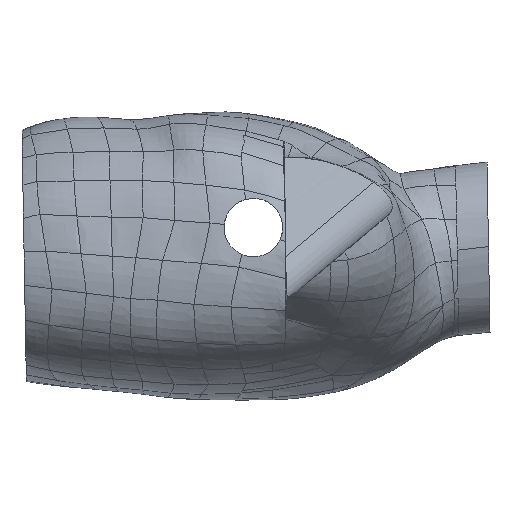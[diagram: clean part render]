
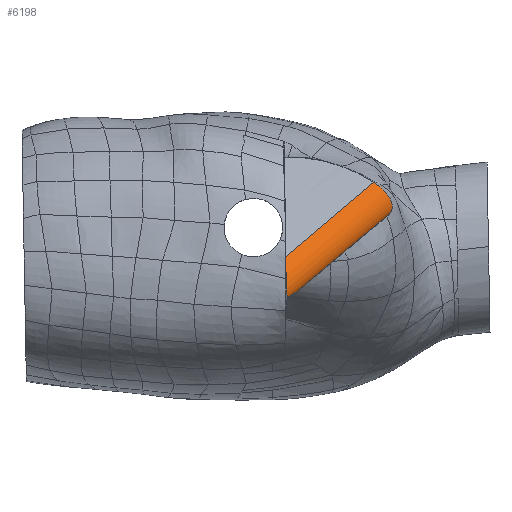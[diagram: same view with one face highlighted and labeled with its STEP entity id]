
A CAD part, left-side view. The second image highlights one B-rep face of the part: STEP entity #6198.
In plain terms, the highlighted cylindrical face has radius 19.05 mm (diameter 38.1 mm), a partial arc.
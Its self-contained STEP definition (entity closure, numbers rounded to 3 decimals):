
#26=CYLINDRICAL_SURFACE('',#6502,19.05);
#182=FACE_OUTER_BOUND('',#612,.T.);
#612=EDGE_LOOP('',(#4273,#4274,#4275,#4276,#4277,#4278,#4279,#4280,#4281,
#4282,#4283));
#1266=B_SPLINE_CURVE_WITH_KNOTS('',3,(#34501,#34502,#34503,#34504,#34505,
#34506),.UNSPECIFIED.,.F.,.F.,(4,2,4),(-0.439,-0.22,
-0.001),.UNSPECIFIED.);
#1267=B_SPLINE_CURVE_WITH_KNOTS('',3,(#34508,#34509,#34510,#34511,#34512,
#34513),.UNSPECIFIED.,.F.,.F.,(4,2,4),(-0.147,-0.085,
0.),.UNSPECIFIED.);
#1268=B_SPLINE_CURVE_WITH_KNOTS('',3,(#34517,#34518,#34519,#34520,#34521,
#34522),.UNSPECIFIED.,.F.,.F.,(4,2,4),(-0.422,-0.252,
0.),.UNSPECIFIED.);
#1269=B_SPLINE_CURVE_WITH_KNOTS('',3,(#34524,#34525,#34526,#34527,#34528,
#34529,#34530,#34531,#34532,#34533),.UNSPECIFIED.,.F.,.F.,(4,2,2,2,4),(0.,
0.6,1.278,1.97,2.496),
 .UNSPECIFIED.);
#1270=B_SPLINE_CURVE_WITH_KNOTS('',3,(#34535,#34536,#34537,#34538,#34539,
#34540),.UNSPECIFIED.,.F.,.F.,(4,2,4),(0.,0.068,
0.134),.UNSPECIFIED.);
#1271=B_SPLINE_CURVE_WITH_KNOTS('',3,(#34542,#34543,#34544,#34545,#34546,
#34547),.UNSPECIFIED.,.F.,.F.,(4,2,4),(-0.413,-0.209,
0.),.UNSPECIFIED.);
#1272=B_SPLINE_CURVE_WITH_KNOTS('',3,(#34548,#34549,#34550,#34551,#34552,
#34553),.UNSPECIFIED.,.F.,.F.,(4,2,4),(-0.36,-0.181,
0.),.UNSPECIFIED.);
#1273=B_SPLINE_CURVE_WITH_KNOTS('',3,(#34555,#34556,#34557,#34558,#34559,
#34560),.UNSPECIFIED.,.F.,.F.,(4,2,4),(-0.052,-0.027,
0.),.UNSPECIFIED.);
#1274=B_SPLINE_CURVE_WITH_KNOTS('',3,(#34561,#34562,#34563,#34564,#34565,
#34566,#34567,#34568,#34569,#34570,#34571,#34572),.UNSPECIFIED.,.F.,.F.,
(4,2,2,2,2,4),(0.,0.644,1.315,2.031,
2.338,2.638),.UNSPECIFIED.);
#1909=LINE('',#32676,#1937);
#1910=LINE('',#34515,#1938);
#1937=VECTOR('',#6546,10.);
#1938=VECTOR('',#6549,10.);
#2180=VERTEX_POINT('',#32667);
#2182=VERTEX_POINT('',#32675);
#2192=VERTEX_POINT('',#34499);
#2193=VERTEX_POINT('',#34500);
#2194=VERTEX_POINT('',#34507);
#2195=VERTEX_POINT('',#34514);
#2196=VERTEX_POINT('',#34516);
#2197=VERTEX_POINT('',#34523);
#2198=VERTEX_POINT('',#34534);
#2199=VERTEX_POINT('',#34541);
#2200=VERTEX_POINT('',#34554);
#2925=EDGE_CURVE('',#2180,#2182,#1909,.T.);
#2943=EDGE_CURVE('',#2192,#2193,#1266,.T.);
#2944=EDGE_CURVE('',#2194,#2192,#1267,.T.);
#2945=EDGE_CURVE('',#2195,#2194,#1910,.T.);
#2946=EDGE_CURVE('',#2196,#2195,#1268,.T.);
#2947=EDGE_CURVE('',#2197,#2196,#1269,.F.);
#2948=EDGE_CURVE('',#2198,#2197,#1270,.T.);
#2949=EDGE_CURVE('',#2199,#2198,#1271,.T.);
#2950=EDGE_CURVE('',#2182,#2199,#1272,.T.);
#2951=EDGE_CURVE('',#2200,#2180,#1273,.T.);
#2952=EDGE_CURVE('',#2193,#2200,#1274,.F.);
#4273=ORIENTED_EDGE('',*,*,#2943,.F.);
#4274=ORIENTED_EDGE('',*,*,#2944,.F.);
#4275=ORIENTED_EDGE('',*,*,#2945,.F.);
#4276=ORIENTED_EDGE('',*,*,#2946,.F.);
#4277=ORIENTED_EDGE('',*,*,#2947,.F.);
#4278=ORIENTED_EDGE('',*,*,#2948,.F.);
#4279=ORIENTED_EDGE('',*,*,#2949,.F.);
#4280=ORIENTED_EDGE('',*,*,#2950,.F.);
#4281=ORIENTED_EDGE('',*,*,#2925,.F.);
#4282=ORIENTED_EDGE('',*,*,#2951,.F.);
#4283=ORIENTED_EDGE('',*,*,#2952,.F.);
#6198=ADVANCED_FACE('',(#182),#26,.F.);
#6502=AXIS2_PLACEMENT_3D('',#34498,#6547,#6548);
#6546=DIRECTION('',(-0.342,0.72,-0.604));
#6547=DIRECTION('center_axis',(0.342,-0.72,0.604));
#6548=DIRECTION('ref_axis',(0.,-0.643,-0.766));
#6549=DIRECTION('',(0.342,-0.72,0.604));
#32667=CARTESIAN_POINT('',(31.863,-202.547,-56.298));
#32675=CARTESIAN_POINT('',(8.308,-152.972,-97.897));
#32676=CARTESIAN_POINT('',(31.868,-202.558,-56.289));
#34498=CARTESIAN_POINT('Origin',(45.248,-218.482,-18.06));
#34499=CARTESIAN_POINT('',(53.872,-196.028,-40.284));
#34500=CARTESIAN_POINT('',(52.997,-199.306,-43.027));
#34501=CARTESIAN_POINT('Ctrl Pts',(53.872,-196.028,-40.284));
#34502=CARTESIAN_POINT('Ctrl Pts',(53.83,-196.613,-40.717));
#34503=CARTESIAN_POINT('Ctrl Pts',(53.739,-197.183,-41.161));
#34504=CARTESIAN_POINT('Ctrl Pts',(53.448,-198.283,-42.078));
#34505=CARTESIAN_POINT('Ctrl Pts',(53.249,-198.811,-42.549));
#34506=CARTESIAN_POINT('Ctrl Pts',(52.997,-199.306,-43.027));
#34507=CARTESIAN_POINT('',(53.802,-193.821,-38.757));
#34508=CARTESIAN_POINT('Ctrl Pts',(53.802,-193.821,-38.757));
#34509=CARTESIAN_POINT('Ctrl Pts',(53.849,-194.192,-38.999));
#34510=CARTESIAN_POINT('Ctrl Pts',(53.879,-194.563,-39.247));
#34511=CARTESIAN_POINT('Ctrl Pts',(53.908,-195.434,-39.848));
#34512=CARTESIAN_POINT('Ctrl Pts',(53.888,-195.8,-40.115));
#34513=CARTESIAN_POINT('Ctrl Pts',(53.872,-196.028,-40.284));
#34514=CARTESIAN_POINT('',(30.602,-145.212,-79.965));
#34515=CARTESIAN_POINT('',(30.767,-145.339,-79.438));
#34516=CARTESIAN_POINT('',(29.273,-145.448,-84.25));
#34517=CARTESIAN_POINT('Ctrl Pts',(29.273,-145.448,-84.25));
#34518=CARTESIAN_POINT('Ctrl Pts',(29.481,-145.439,-83.723));
#34519=CARTESIAN_POINT('Ctrl Pts',(29.677,-145.429,-83.192));
#34520=CARTESIAN_POINT('Ctrl Pts',(30.129,-145.408,-81.86));
#34521=CARTESIAN_POINT('Ctrl Pts',(30.371,-145.397,-81.053));
#34522=CARTESIAN_POINT('Ctrl Pts',(30.582,-145.387,-80.238));
#34523=CARTESIAN_POINT('',(12.653,-146.187,-101.971));
#34524=CARTESIAN_POINT('Ctrl Pts',(29.273,-145.448,-84.25));
#34525=CARTESIAN_POINT('Ctrl Pts',(28.538,-145.483,-86.109));
#34526=CARTESIAN_POINT('Ctrl Pts',(27.641,-145.525,-87.91));
#34527=CARTESIAN_POINT('Ctrl Pts',(25.424,-145.626,-91.548));
#34528=CARTESIAN_POINT('Ctrl Pts',(24.056,-145.687,-93.373));
#34529=CARTESIAN_POINT('Ctrl Pts',(20.952,-145.827,-96.72));
#34530=CARTESIAN_POINT('Ctrl Pts',(19.197,-145.906,-98.248));
#34531=CARTESIAN_POINT('Ctrl Pts',(15.833,-146.052,-100.499));
#34532=CARTESIAN_POINT('Ctrl Pts',(14.279,-146.118,-101.333));
#34533=CARTESIAN_POINT('Ctrl Pts',(12.653,-146.187,-101.971));
#34534=CARTESIAN_POINT('',(12.005,-147.261,-101.521));
#34535=CARTESIAN_POINT('Ctrl Pts',(12.005,-147.261,-101.521));
#34536=CARTESIAN_POINT('Ctrl Pts',(12.116,-147.081,-101.601));
#34537=CARTESIAN_POINT('Ctrl Pts',(12.227,-146.899,-101.68));
#34538=CARTESIAN_POINT('Ctrl Pts',(12.444,-146.54,-101.83));
#34539=CARTESIAN_POINT('Ctrl Pts',(12.549,-146.364,-101.902));
#34540=CARTESIAN_POINT('Ctrl Pts',(12.653,-146.187,-101.971));
#34541=CARTESIAN_POINT('',(10.041,-150.44,-99.769));
#34542=CARTESIAN_POINT('Ctrl Pts',(10.041,-150.44,-99.769));
#34543=CARTESIAN_POINT('Ctrl Pts',(10.369,-149.939,-100.094));
#34544=CARTESIAN_POINT('Ctrl Pts',(10.697,-149.426,-100.4));
#34545=CARTESIAN_POINT('Ctrl Pts',(11.354,-148.367,-100.985));
#34546=CARTESIAN_POINT('Ctrl Pts',(11.682,-147.819,-101.262));
#34547=CARTESIAN_POINT('Ctrl Pts',(12.005,-147.261,-101.521));
#34548=CARTESIAN_POINT('Ctrl Pts',(8.307,-152.972,-97.897));
#34549=CARTESIAN_POINT('Ctrl Pts',(8.59,-152.57,-98.234));
#34550=CARTESIAN_POINT('Ctrl Pts',(8.878,-152.161,-98.556));
#34551=CARTESIAN_POINT('Ctrl Pts',(9.458,-151.318,-99.181));
#34552=CARTESIAN_POINT('Ctrl Pts',(9.75,-150.883,-99.482));
#34553=CARTESIAN_POINT('Ctrl Pts',(10.041,-150.44,-99.769));
#34554=CARTESIAN_POINT('',(32.354,-202.671,-56.189));
#34555=CARTESIAN_POINT('Ctrl Pts',(32.354,-202.671,-56.189));
#34556=CARTESIAN_POINT('Ctrl Pts',(32.274,-202.651,-56.207));
#34557=CARTESIAN_POINT('Ctrl Pts',(32.194,-202.631,-56.225));
#34558=CARTESIAN_POINT('Ctrl Pts',(32.031,-202.59,-56.262));
#34559=CARTESIAN_POINT('Ctrl Pts',(31.947,-202.568,-56.28));
#34560=CARTESIAN_POINT('Ctrl Pts',(31.863,-202.547,-56.298));
#34561=CARTESIAN_POINT('Ctrl Pts',(32.354,-202.671,-56.189));
#34562=CARTESIAN_POINT('Ctrl Pts',(34.386,-203.175,-55.718));
#34563=CARTESIAN_POINT('Ctrl Pts',(36.422,-203.567,-55.055));
#34564=CARTESIAN_POINT('Ctrl Pts',(40.449,-204.057,-53.385));
#34565=CARTESIAN_POINT('Ctrl Pts',(42.479,-204.151,-52.346));
#34566=CARTESIAN_POINT('Ctrl Pts',(46.389,-203.834,-49.924));
#34567=CARTESIAN_POINT('Ctrl Pts',(48.292,-203.38,-48.502));
#34568=CARTESIAN_POINT('Ctrl Pts',(50.556,-202.107,-46.325));
#34569=CARTESIAN_POINT('Ctrl Pts',(51.17,-201.648,-45.658));
#34570=CARTESIAN_POINT('Ctrl Pts',(52.222,-200.576,-44.327));
#34571=CARTESIAN_POINT('Ctrl Pts',(52.655,-199.977,-43.675));
#34572=CARTESIAN_POINT('Ctrl Pts',(52.997,-199.306,-43.027));
